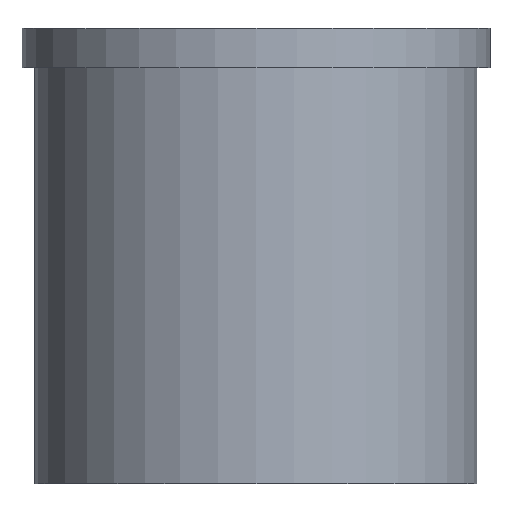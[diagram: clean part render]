
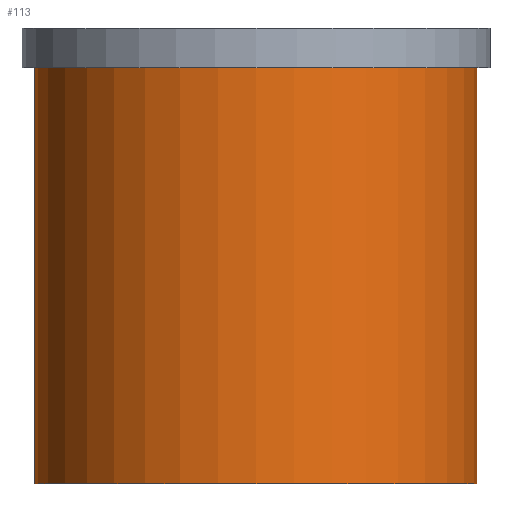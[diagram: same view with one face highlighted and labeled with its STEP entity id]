
A CAD part, front view. The second image highlights one B-rep face of the part: STEP entity #113.
In plain terms, the highlighted cylindrical face has radius 17 mm (diameter 34 mm), a partial arc.
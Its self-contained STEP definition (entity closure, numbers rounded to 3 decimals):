
#113=ADVANCED_FACE('',(#126),#120,.T.);
#120=CYLINDRICAL_SURFACE('',#249,17.);
#126=FACE_OUTER_BOUND('',#136,.T.);
#136=EDGE_LOOP('',(#179,#180,#181,#182));
#148=CIRCLE('',#244,17.);
#150=CIRCLE('',#248,17.);
#179=ORIENTED_EDGE('',*,*,#213,.F.);
#180=ORIENTED_EDGE('',*,*,#212,.T.);
#181=ORIENTED_EDGE('',*,*,#215,.T.);
#182=ORIENTED_EDGE('',*,*,#216,.F.);
#195=VERTEX_POINT('',#328);
#196=VERTEX_POINT('',#329);
#197=VERTEX_POINT('',#333);
#198=VERTEX_POINT('',#335);
#212=EDGE_CURVE('',#196,#195,#148,.T.);
#213=EDGE_CURVE('',#196,#197,#221,.T.);
#215=EDGE_CURVE('',#195,#198,#222,.T.);
#216=EDGE_CURVE('',#197,#198,#150,.T.);
#221=LINE('',#332,#227);
#222=LINE('',#336,#228);
#227=VECTOR('',#289,1.);
#228=VECTOR('',#292,1.);
#244=AXIS2_PLACEMENT_3D('',#330,#285,#286);
#248=AXIS2_PLACEMENT_3D('',#338,#295,#296);
#249=AXIS2_PLACEMENT_3D('',#339,#297,#298);
#285=DIRECTION('',(0.,0.,1.));
#286=DIRECTION('',(0.,1.,0.));
#289=DIRECTION('',(0.,0.,1.));
#292=DIRECTION('',(0.,0.,1.));
#295=DIRECTION('',(0.,0.,1.));
#296=DIRECTION('',(0.,1.,0.));
#297=DIRECTION('',(0.,0.,1.));
#298=DIRECTION('',(0.,-1.,0.));
#328=CARTESIAN_POINT('',(17.,0.,-32.));
#329=CARTESIAN_POINT('',(-17.,0.,-32.));
#330=CARTESIAN_POINT('',(0.,0.,-32.));
#332=CARTESIAN_POINT('',(-17.,0.,-32.));
#333=CARTESIAN_POINT('',(-17.,0.,0.));
#335=CARTESIAN_POINT('',(17.,0.,0.));
#336=CARTESIAN_POINT('',(17.,0.,-32.));
#338=CARTESIAN_POINT('',(0.,0.,0.));
#339=CARTESIAN_POINT('',(0.,0.,-32.));
